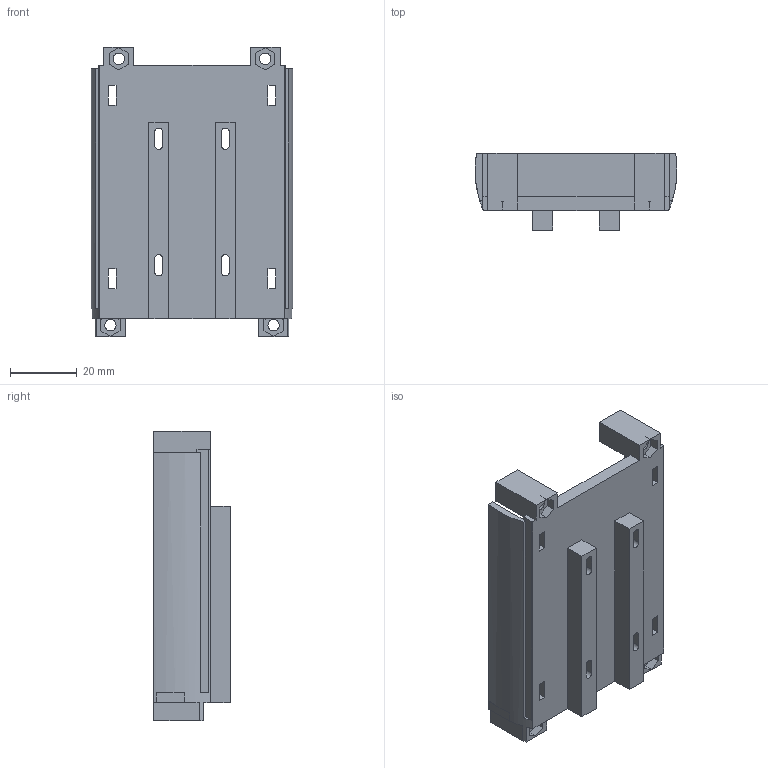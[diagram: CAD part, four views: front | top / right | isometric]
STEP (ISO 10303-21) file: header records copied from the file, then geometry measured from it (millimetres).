
FILE_DESCRIPTION(('FreeCAD Model'),'2;1');
FILE_NAME('Open CASCADE Shape Model','2026-09-19T21:01:32',('FreeCAD'),( 'FreeCAD'),'Open CASCADE STEP processor 7.8','FreeCAD','Unknown');
FILE_SCHEMA(('AUTOMOTIVE_DESIGN { 1 0 10303 214 1 1 1 1 }'));
Length unit declared in the file: millimetre
Products named in the file (1): Open CASCADE STEP translator 7.8 5
Bounding box: 60.6 x 23 x 87 mm (x, y, z)
Volume: 29495.2 mm3; surface area: 19967.2 mm2
Topology: 1 solids, 1 shells, 118 faces, 342 edges, 228 vertices
Faces by surface type: plane 104, cylinder 14
Full cylindrical faces by diameter (mm): 3.4 x4
Entity records: 3906 total; most frequent: CARTESIAN_POINT 689, ORIENTED_EDGE 684, DIRECTION 622, EDGE_CURVE 342, LINE 300, VECTOR 300, VERTEX_POINT 228, AXIS2_PLACEMENT_3D 161
